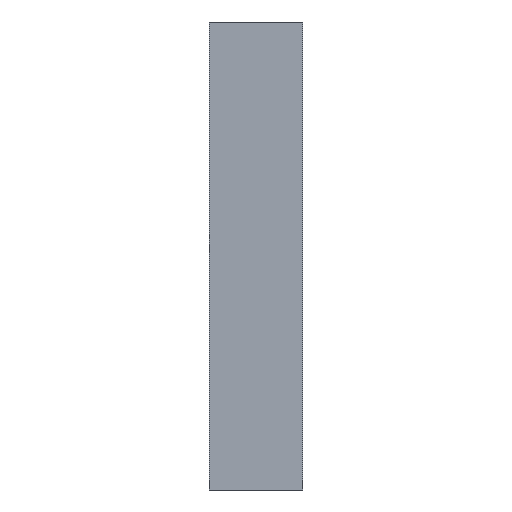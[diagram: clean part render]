
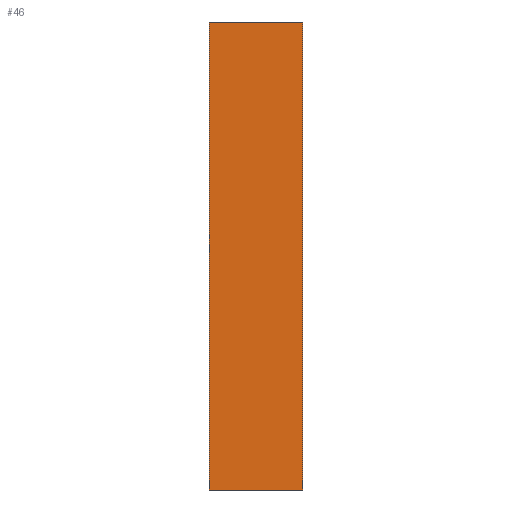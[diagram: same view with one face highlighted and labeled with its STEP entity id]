
A CAD part, left-side view. The second image highlights one B-rep face of the part: STEP entity #46.
In plain terms, the highlighted planar face has unit normal (-1, 0, 0).
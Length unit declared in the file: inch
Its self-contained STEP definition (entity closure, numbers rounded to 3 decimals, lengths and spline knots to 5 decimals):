
#2 = ORIENTED_EDGE ( 'NONE', *, *, #1289, .F. ) ;
#42 = CARTESIAN_POINT ( 'NONE',  ( -12., 0., 1.25 ) ) ;
#46 = ADVANCED_FACE ( 'NONE', ( #230 ), #706, .F. ) ;
#75 = VECTOR ( 'NONE', #1098, 39.37008 ) ;
#125 = DIRECTION ( 'NONE',  ( 0., 0., -1. ) ) ;
#137 = DIRECTION ( 'NONE',  ( 0., 0., 1. ) ) ;
#153 = ORIENTED_EDGE ( 'NONE', *, *, #451, .F. ) ;
#161 = CARTESIAN_POINT ( 'NONE',  ( -12., 0.5, -1.25 ) ) ;
#196 = ORIENTED_EDGE ( 'NONE', *, *, #1290, .T. ) ;
#230 = FACE_OUTER_BOUND ( 'NONE', #1448, .T. ) ;
#285 = CARTESIAN_POINT ( 'NONE',  ( -12., 0.5, -1.25 ) ) ;
#334 = CARTESIAN_POINT ( 'NONE',  ( -12., 0.5, 1.25 ) ) ;
#347 = EDGE_CURVE ( 'NONE', #1396, #1009, #1329, .T. ) ;
#403 = LINE ( 'NONE', #439, #756 ) ;
#414 = DIRECTION ( 'NONE',  ( 1., 0., 0. ) ) ;
#439 = CARTESIAN_POINT ( 'NONE',  ( -12., 0., 1.25 ) ) ;
#451 = EDGE_CURVE ( 'NONE', #1396, #709, #1026, .T. ) ;
#492 = DIRECTION ( 'NONE',  ( 0., -1., 0. ) ) ;
#519 = VECTOR ( 'NONE', #583, 39.37008 ) ;
#526 = CARTESIAN_POINT ( 'NONE',  ( -12., 0.5, 1.25 ) ) ;
#583 = DIRECTION ( 'NONE',  ( 0., 0., 1. ) ) ;
#706 = PLANE ( 'NONE',  #1472 ) ;
#709 = VERTEX_POINT ( 'NONE', #526 ) ;
#712 = VECTOR ( 'NONE', #492, 39.37008 ) ;
#756 = VECTOR ( 'NONE', #137, 39.37008 ) ;
#919 = ORIENTED_EDGE ( 'NONE', *, *, #347, .T. ) ;
#979 = CARTESIAN_POINT ( 'NONE',  ( -12., 0.5, 1.25 ) ) ;
#1009 = VERTEX_POINT ( 'NONE', #1209 ) ;
#1026 = LINE ( 'NONE', #979, #519 ) ;
#1082 = LINE ( 'NONE', #1094, #712 ) ;
#1094 = CARTESIAN_POINT ( 'NONE',  ( -12., 0.5, 1.25 ) ) ;
#1098 = DIRECTION ( 'NONE',  ( 0., -1., 0. ) ) ;
#1173 = VERTEX_POINT ( 'NONE', #42 ) ;
#1209 = CARTESIAN_POINT ( 'NONE',  ( -12., 0., -1.25 ) ) ;
#1289 = EDGE_CURVE ( 'NONE', #709, #1173, #1082, .T. ) ;
#1290 = EDGE_CURVE ( 'NONE', #1009, #1173, #403, .T. ) ;
#1329 = LINE ( 'NONE', #161, #75 ) ;
#1396 = VERTEX_POINT ( 'NONE', #285 ) ;
#1448 = EDGE_LOOP ( 'NONE', ( #196, #2, #153, #919 ) ) ;
#1472 = AXIS2_PLACEMENT_3D ( 'NONE', #334, #414, #125 ) ;
